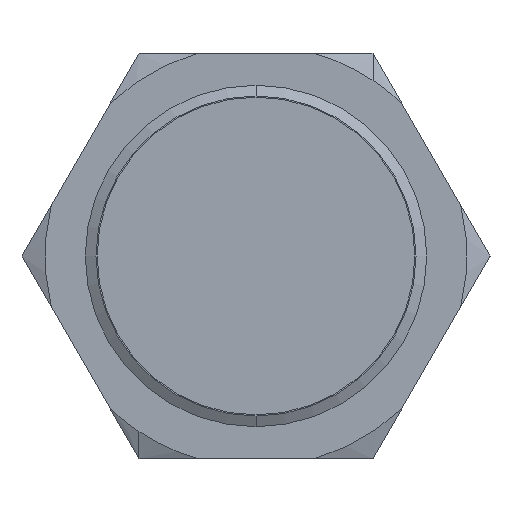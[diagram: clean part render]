
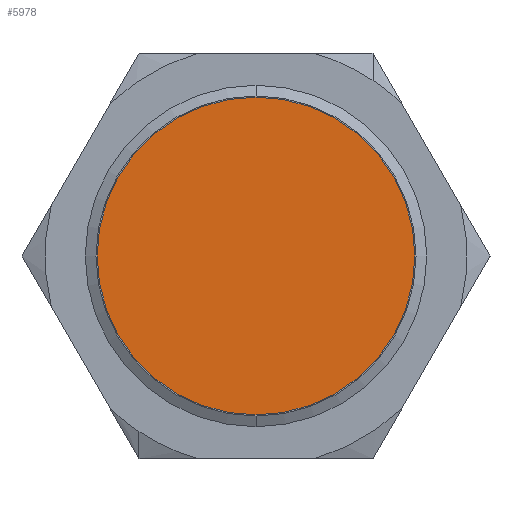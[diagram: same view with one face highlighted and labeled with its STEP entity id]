
A CAD part, left-side view. The second image highlights one B-rep face of the part: STEP entity #5978.
In plain terms, the highlighted planar face has unit normal (-1, 0, 0).
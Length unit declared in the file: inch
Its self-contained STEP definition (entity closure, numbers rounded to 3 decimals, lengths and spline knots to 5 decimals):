
#665 = FACE_OUTER_BOUND ( 'NONE', #10460, .T. ) ;
#666 = PLANE ( 'NONE',  #667 ) ;
#667 = AXIS2_PLACEMENT_3D ( 'NONE', #668, #669, #670 ) ;
#668 = CARTESIAN_POINT ( 'NONE',  ( 0., 0., 0. ) ) ;
#669 = DIRECTION ( 'NONE',  ( 1., 0., 0. ) ) ;
#670 = DIRECTION ( 'NONE',  ( 0., 0., -1. ) ) ;
#717 = CIRCLE ( 'NONE', #718, 0.55 ) ;
#718 = AXIS2_PLACEMENT_3D ( 'NONE', #719, #720, #721 ) ;
#719 = CARTESIAN_POINT ( 'NONE',  ( 0., 0., 0. ) ) ;
#720 = DIRECTION ( 'NONE',  ( 1., 0., 0. ) ) ;
#721 = DIRECTION ( 'NONE',  ( 0., 0., 1. ) ) ;
#796 = CIRCLE ( 'NONE', #797, 0.55 ) ;
#797 = AXIS2_PLACEMENT_3D ( 'NONE', #798, #799, #800 ) ;
#798 = CARTESIAN_POINT ( 'NONE',  ( 0., 0., 0. ) ) ;
#799 = DIRECTION ( 'NONE',  ( 1., 0., 0. ) ) ;
#800 = DIRECTION ( 'NONE',  ( 0., 0., 1. ) ) ;
#807 = CARTESIAN_POINT ( 'NONE',  ( 0., 0., 0.55 ) ) ;
#5114 = CARTESIAN_POINT ( 'NONE',  ( 0., 0., -0.55 ) ) ;
#5978 = ADVANCED_FACE ( 'NONE', ( #665 ), #666, .F. ) ;
#6176 = EDGE_CURVE ( 'NONE', #10431, #6455, #717, .T. ) ;
#6400 = EDGE_CURVE ( 'NONE', #6455, #10431, #796, .T. ) ;
#6455 = VERTEX_POINT ( 'NONE', #807 ) ;
#10395 = ORIENTED_EDGE ( 'NONE', *, *, #6400, .F. ) ;
#10431 = VERTEX_POINT ( 'NONE', #5114 ) ;
#10460 = EDGE_LOOP ( 'NONE', ( #10395, #13181 ) ) ;
#13181 = ORIENTED_EDGE ( 'NONE', *, *, #6176, .F. ) ;
